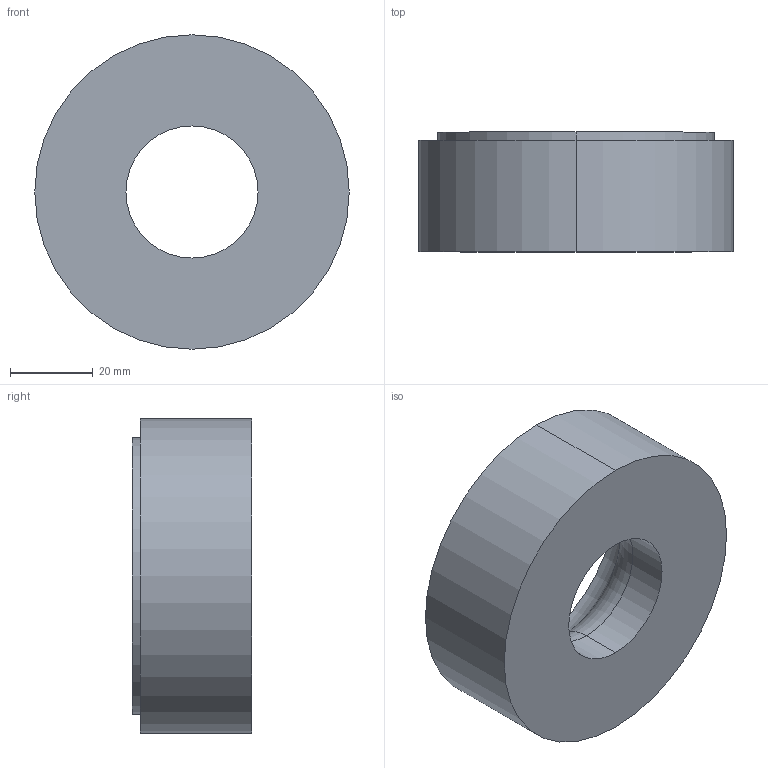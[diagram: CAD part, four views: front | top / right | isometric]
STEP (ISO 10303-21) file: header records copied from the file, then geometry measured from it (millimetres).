
FILE_DESCRIPTION (( 'STEP AP203' ), '1' );
FILE_NAME ('Bottom.STEP', '2020-03-10T17:51:48', ( '' ), ( '' ), 'SwSTEP 2.0', 'SolidWorks 2018', '' );
FILE_SCHEMA (( 'CONFIG_CONTROL_DESIGN' ));
Length unit declared in the file: millimetre
Products named in the file (1): Bottom
Bounding box: 76.2 x 29 x 76.2 mm (x, y, z)
Volume: 90556.3 mm3; surface area: 17017 mm2
Topology: 1 solids, 1 shells, 13 faces, 26 edges, 16 vertices
Faces by surface type: cylinder 6, torus 4, plane 3
Entity records: 429 total; most frequent: DIRECTION 74, CARTESIAN_POINT 56, ORIENTED_EDGE 52, AXIS2_PLACEMENT_3D 34, EDGE_CURVE 26, CIRCLE 20, EDGE_LOOP 16, VERTEX_POINT 16
